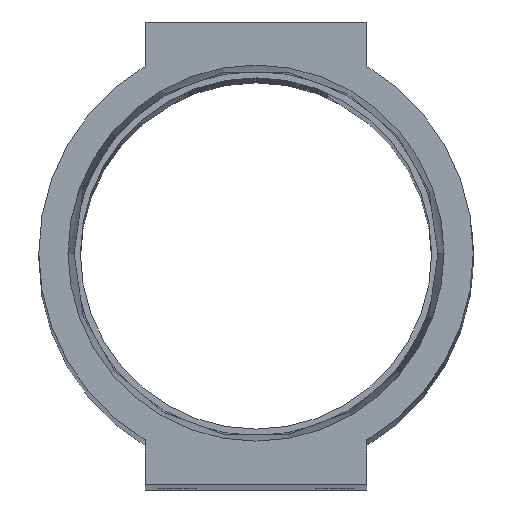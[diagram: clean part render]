
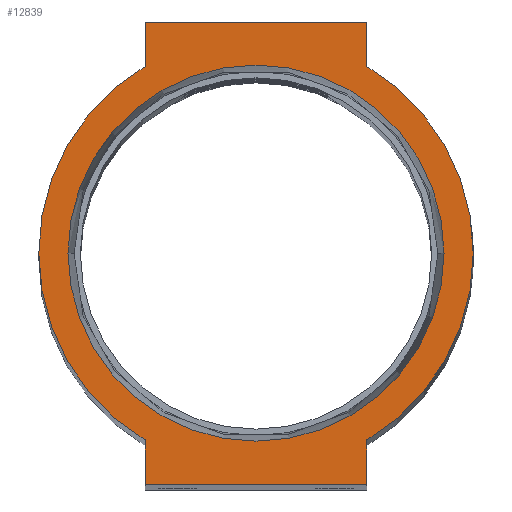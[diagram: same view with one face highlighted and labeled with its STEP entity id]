
A CAD part, top view. The second image highlights one B-rep face of the part: STEP entity #12839.
In plain terms, the highlighted planar face has unit normal (0, 0, 1).
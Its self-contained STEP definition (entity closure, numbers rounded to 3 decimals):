
#27 = FACE_BOUND ( 'NONE', #5319, .T. ) ;
#46 = AXIS2_PLACEMENT_3D ( 'NONE', #12962, #9694, #7679 ) ;
#272 = EDGE_CURVE ( 'NONE', #6076, #7794, #4893, .T. ) ;
#295 = CARTESIAN_POINT ( 'NONE',  ( -12., -25., 0. ) ) ;
#364 = DIRECTION ( 'NONE',  ( 1., 0., 0. ) ) ;
#967 = LINE ( 'NONE', #9394, #10114 ) ;
#1008 = CARTESIAN_POINT ( 'NONE',  ( 0., 0., 0. ) ) ;
#1054 = EDGE_CURVE ( 'NONE', #7098, #6076, #5409, .T. ) ;
#1120 = DIRECTION ( 'NONE',  ( 0., 1., 0. ) ) ;
#1299 = CARTESIAN_POINT ( 'NONE',  ( 12., 25., 0. ) ) ;
#1385 = CARTESIAN_POINT ( 'NONE',  ( 0., 0., 0. ) ) ;
#1811 = DIRECTION ( 'NONE',  ( 0., -1., 0. ) ) ;
#1833 = CARTESIAN_POINT ( 'NONE',  ( -12., 20.205, 0. ) ) ;
#1967 = EDGE_CURVE ( 'NONE', #7665, #13016, #9112, .T. ) ;
#1985 = ORIENTED_EDGE ( 'NONE', *, *, #12409, .F. ) ;
#2044 = FACE_OUTER_BOUND ( 'NONE', #11170, .T. ) ;
#2079 = DIRECTION ( 'NONE',  ( 0., -1., 0. ) ) ;
#2186 = EDGE_CURVE ( 'NONE', #4445, #5674, #11543, .T. ) ;
#2262 = EDGE_CURVE ( 'NONE', #7794, #9998, #13321, .T. ) ;
#2324 = AXIS2_PLACEMENT_3D ( 'NONE', #10863, #10733, #364 ) ;
#2357 = DIRECTION ( 'NONE',  ( 0., 0., 1. ) ) ;
#2674 = CARTESIAN_POINT ( 'NONE',  ( 0., 0., 0. ) ) ;
#3147 = ORIENTED_EDGE ( 'NONE', *, *, #1054, .T. ) ;
#3460 = DIRECTION ( 'NONE',  ( 1., 0., 0. ) ) ;
#3743 = LINE ( 'NONE', #7969, #11357 ) ;
#3810 = DIRECTION ( 'NONE',  ( 1., 0., 0. ) ) ;
#3934 = EDGE_CURVE ( 'NONE', #9347, #4445, #3743, .T. ) ;
#3991 = CARTESIAN_POINT ( 'NONE',  ( -12., 25., 0. ) ) ;
#4297 = DIRECTION ( 'NONE',  ( 0., 0., 1. ) ) ;
#4319 = AXIS2_PLACEMENT_3D ( 'NONE', #2674, #4870, #6869 ) ;
#4445 = VERTEX_POINT ( 'NONE', #11303 ) ;
#4581 = AXIS2_PLACEMENT_3D ( 'NONE', #1008, #4297, #11441 ) ;
#4870 = DIRECTION ( 'NONE',  ( 0., 0., 1. ) ) ;
#4893 = LINE ( 'NONE', #3991, #11660 ) ;
#5019 = CIRCLE ( 'NONE', #7225, 20.34 ) ;
#5097 = EDGE_CURVE ( 'NONE', #5674, #7064, #11630, .T. ) ;
#5319 = EDGE_LOOP ( 'NONE', ( #13039, #1985 ) ) ;
#5409 = LINE ( 'NONE', #9708, #9380 ) ;
#5674 = VERTEX_POINT ( 'NONE', #11112 ) ;
#6076 = VERTEX_POINT ( 'NONE', #10060 ) ;
#6348 = CARTESIAN_POINT ( 'NONE',  ( 12., -25., 0. ) ) ;
#6411 = LINE ( 'NONE', #7532, #6720 ) ;
#6626 = DIRECTION ( 'NONE',  ( 0., 0., 1. ) ) ;
#6692 = VERTEX_POINT ( 'NONE', #11688 ) ;
#6720 = VECTOR ( 'NONE', #8507, 1000. ) ;
#6807 = ORIENTED_EDGE ( 'NONE', *, *, #5097, .T. ) ;
#6869 = DIRECTION ( 'NONE',  ( 1., 0., 0. ) ) ;
#7064 = VERTEX_POINT ( 'NONE', #9779 ) ;
#7098 = VERTEX_POINT ( 'NONE', #1299 ) ;
#7225 = AXIS2_PLACEMENT_3D ( 'NONE', #8648, #6626, #3460 ) ;
#7497 = ORIENTED_EDGE ( 'NONE', *, *, #9314, .T. ) ;
#7532 = CARTESIAN_POINT ( 'NONE',  ( 12., 25., 0. ) ) ;
#7665 = VERTEX_POINT ( 'NONE', #11063 ) ;
#7679 = DIRECTION ( 'NONE',  ( 1., 0., 0. ) ) ;
#7779 = ORIENTED_EDGE ( 'NONE', *, *, #2262, .T. ) ;
#7794 = VERTEX_POINT ( 'NONE', #1833 ) ;
#7969 = CARTESIAN_POINT ( 'NONE',  ( -12., -25., 0. ) ) ;
#8012 = AXIS2_PLACEMENT_3D ( 'NONE', #1385, #2357, #12730 ) ;
#8148 = ORIENTED_EDGE ( 'NONE', *, *, #13507, .T. ) ;
#8398 = PLANE ( 'NONE',  #4581 ) ;
#8507 = DIRECTION ( 'NONE',  ( 0., 1., 0. ) ) ;
#8648 = CARTESIAN_POINT ( 'NONE',  ( 0., 0., 0. ) ) ;
#9112 = CIRCLE ( 'NONE', #46, 20.34 ) ;
#9314 = EDGE_CURVE ( 'NONE', #7064, #6692, #10243, .T. ) ;
#9347 = VERTEX_POINT ( 'NONE', #295 ) ;
#9380 = VECTOR ( 'NONE', #9640, 1000. ) ;
#9394 = CARTESIAN_POINT ( 'NONE',  ( -12., -25., 0. ) ) ;
#9589 = EDGE_CURVE ( 'NONE', #6692, #7098, #6411, .T. ) ;
#9640 = DIRECTION ( 'NONE',  ( -1., 0., 0. ) ) ;
#9694 = DIRECTION ( 'NONE',  ( 0., 0., 1. ) ) ;
#9708 = CARTESIAN_POINT ( 'NONE',  ( -12., 25., 0. ) ) ;
#9779 = CARTESIAN_POINT ( 'NONE',  ( 23.5, 0., 0. ) ) ;
#9788 = ORIENTED_EDGE ( 'NONE', *, *, #9589, .T. ) ;
#9790 = ORIENTED_EDGE ( 'NONE', *, *, #272, .T. ) ;
#9998 = VERTEX_POINT ( 'NONE', #12142 ) ;
#10060 = CARTESIAN_POINT ( 'NONE',  ( -12., 25., 0. ) ) ;
#10114 = VECTOR ( 'NONE', #2079, 1000. ) ;
#10243 = CIRCLE ( 'NONE', #2324, 23.5 ) ;
#10733 = DIRECTION ( 'NONE',  ( 0., 0., 1. ) ) ;
#10805 = CARTESIAN_POINT ( 'NONE',  ( -20.34, 0., 0. ) ) ;
#10863 = CARTESIAN_POINT ( 'NONE',  ( 0., 0., 0. ) ) ;
#11063 = CARTESIAN_POINT ( 'NONE',  ( 20.34, 0., 0. ) ) ;
#11112 = CARTESIAN_POINT ( 'NONE',  ( 12., -20.205, 0. ) ) ;
#11170 = EDGE_LOOP ( 'NONE', ( #9788, #3147, #9790, #7779, #8148, #13585, #11856, #6807, #7497 ) ) ;
#11303 = CARTESIAN_POINT ( 'NONE',  ( 12., -25., 0. ) ) ;
#11357 = VECTOR ( 'NONE', #3810, 1000. ) ;
#11441 = DIRECTION ( 'NONE',  ( 1., 0., 0. ) ) ;
#11543 = LINE ( 'NONE', #6348, #12222 ) ;
#11630 = CIRCLE ( 'NONE', #4319, 23.5 ) ;
#11660 = VECTOR ( 'NONE', #1811, 1000. ) ;
#11688 = CARTESIAN_POINT ( 'NONE',  ( 12., 20.205, 0. ) ) ;
#11856 = ORIENTED_EDGE ( 'NONE', *, *, #2186, .T. ) ;
#12142 = CARTESIAN_POINT ( 'NONE',  ( -12., -20.205, 0. ) ) ;
#12222 = VECTOR ( 'NONE', #1120, 1000. ) ;
#12409 = EDGE_CURVE ( 'NONE', #13016, #7665, #5019, .T. ) ;
#12730 = DIRECTION ( 'NONE',  ( 1., 0., 0. ) ) ;
#12839 = ADVANCED_FACE ( 'NONE', ( #27, #2044 ), #8398, .T. ) ;
#12962 = CARTESIAN_POINT ( 'NONE',  ( 0., 0., 0. ) ) ;
#13016 = VERTEX_POINT ( 'NONE', #10805 ) ;
#13039 = ORIENTED_EDGE ( 'NONE', *, *, #1967, .F. ) ;
#13321 = CIRCLE ( 'NONE', #8012, 23.5 ) ;
#13507 = EDGE_CURVE ( 'NONE', #9998, #9347, #967, .T. ) ;
#13585 = ORIENTED_EDGE ( 'NONE', *, *, #3934, .T. ) ;
